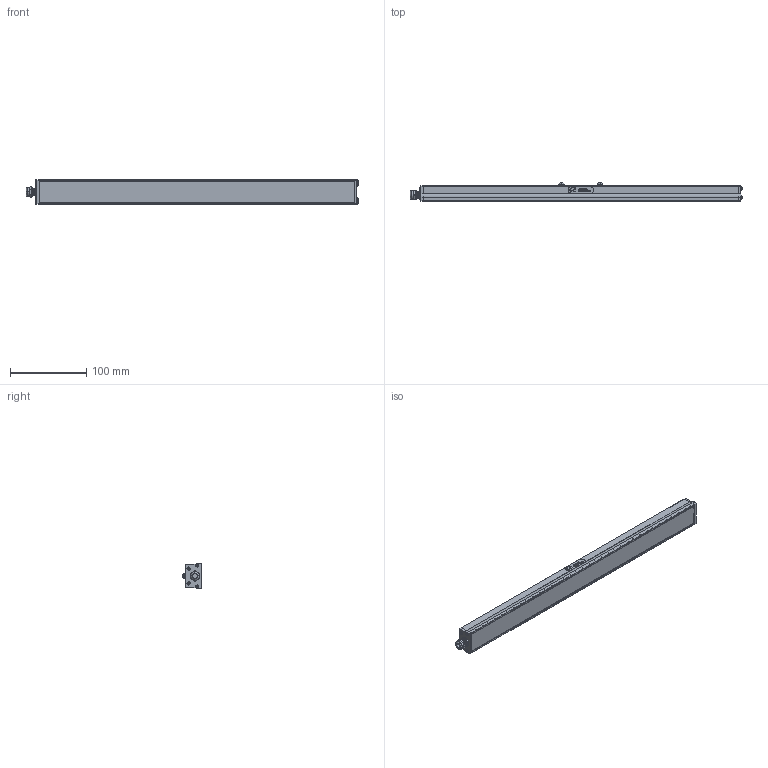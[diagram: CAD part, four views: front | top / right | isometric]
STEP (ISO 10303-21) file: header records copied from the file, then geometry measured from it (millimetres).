
FILE_DESCRIPTION (( 'STEP AP214' ), '1' );
FILE_NAME ('AL116 _NONSEALED__ALL11616.stp', '2021-04-29T14:22:16', ( '' ), ( '' ), 'SwSTEP 2.0', 'SolidWorks 2018', '' );
FILE_SCHEMA (( 'AUTOMOTIVE_DESIGN' ));
Length unit declared in the file: inch
Products named in the file (15): BH-M4x6; 10mm Swish_Default<As Machined>; 091064_Model_Dome Fittings_Thread Type and Size(Dome)_M10 x 1.5_Hazardous Location-Explosive Proof(ATEX and EExe Versions)_No_; 090878-XX_090878-16; 10mm Advanced illumination; 093474_093474; 093469_093469; 090888-XX_090888-16; 091052 (116 126); 10mm Label (116 126)_Default<As Machined>; 10mm Ai; 090869; AL116 _NONSEALED__ALL11616; 090870; HN-M4_90592A016
Assembly tree (24 placements, depth 3):
  AL116 _NONSEALED__ALL11616
    090888-XX_090888-16
    093469_093469  x2
    090869
    090870
    090878-XX_090878-16
    093474_093474  x8
    091064_Model_Dome Fittings_Thread Type and Size(Dome)_M10 x 1.5_Hazardous Location-Explosive Proof(ATEX and EExe Versions)_No_
    091052 (116 126)
      10mm Label (116 126)_Default<As Machined>
      10mm Ai
      10mm Swish_Default<As Machined>
      10mm Advanced illumination
    HN-M4_90592A016  x2
    BH-M4x6  x2
Bounding box: 435.53 x 24.1 x 32.21 mm (x, y, z)
Volume: 82770.4 mm3; surface area: 119843.2 mm2
Topology: 48 solids, 48 shells, 1911 faces, 4942 edges, 3078 vertices
Faces by surface type: cylinder 954, plane 413, cone 362, bspline 122, torus 60
Entity records: 31843 total; most frequent: CARTESIAN_POINT 11151, ORIENTED_EDGE 4280, DIRECTION 3753, EDGE_CURVE 2140, VERTEX_POINT 1366, AXIS2_PLACEMENT_3D 1335, LINE 1083, VECTOR 1083
